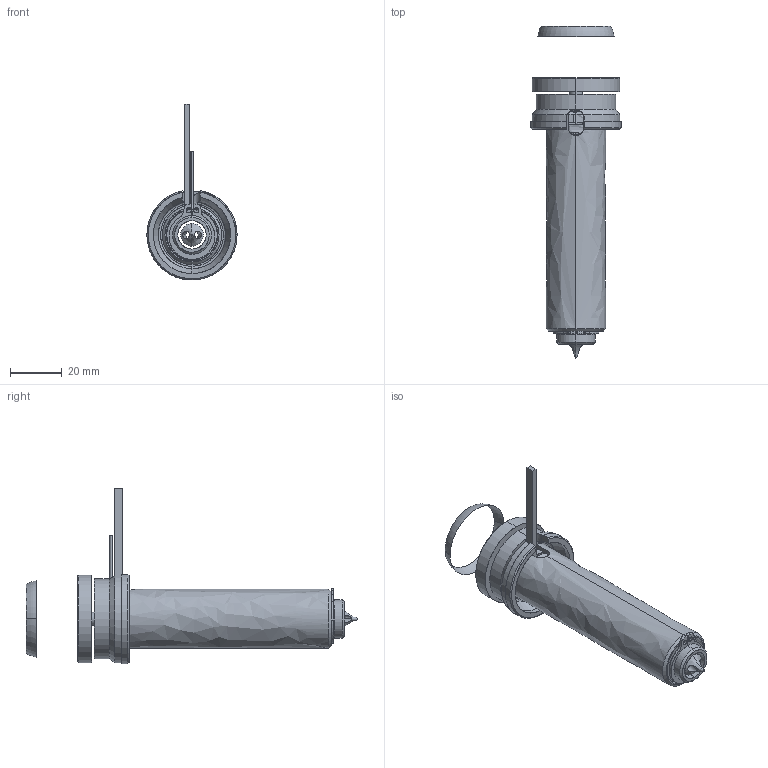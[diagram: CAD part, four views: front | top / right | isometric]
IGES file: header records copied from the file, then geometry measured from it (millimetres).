
Start section: SolidWorks IGES file using analytic representation for surfaces
Global section: file name: C:\Users\luca.EMPAD\Desktop\TEM\UGDL2602-M-A [Øf=0.6 ØC=5.0].IGS; native system: SolidWorks 2012; preprocessor: SolidWorks 2012; author: luca; date: 120330.144815; units: millimetre
Bounding box: 35 x 128.84 x 68.3 mm (x, y, z)
Surface area: 27070.4 mm2 (no closed solid volume)
Topology: 0 solids, 0 shells, 131 faces, 2136 edges, 2132 vertices
Faces by surface type: revolution 76, bspline 55
